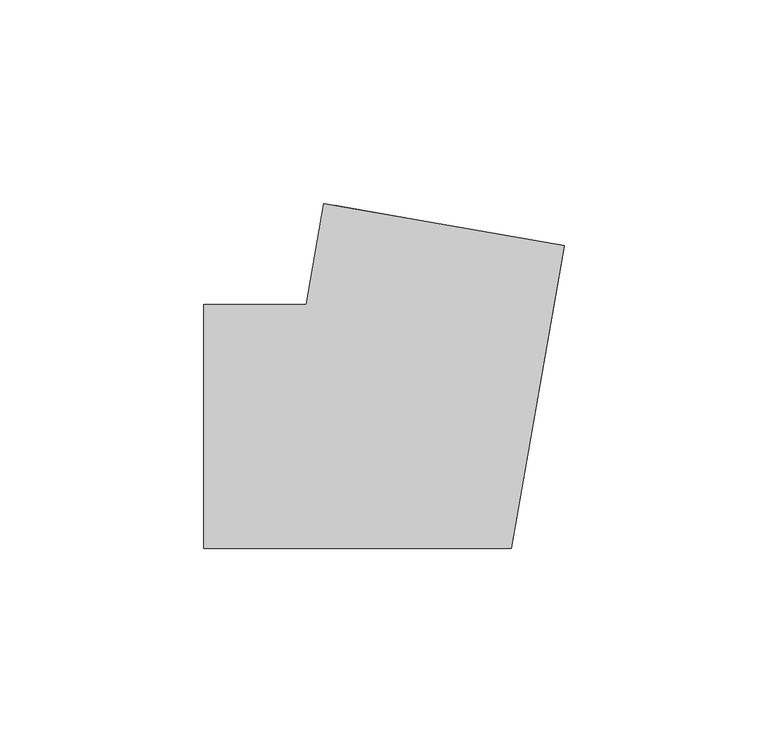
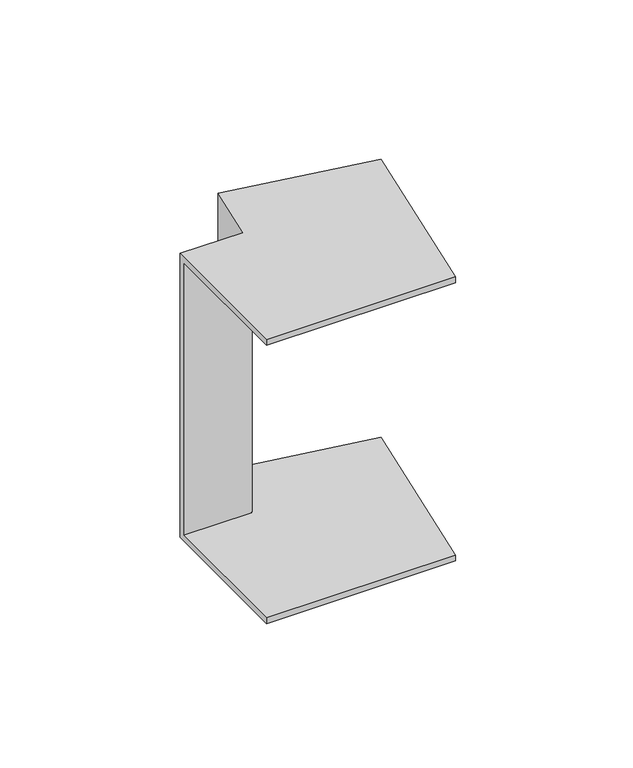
"""IFC4 building model written with IfcOpenShell, lengths in millimetres: cable carrier fitting geometry, КНС_УголВнешний_ILC_DKC : Угол внешний_DKC."""

from ifc_helpers import new_model, si_unit, origin, place, context, project, spatial, faceted_brep, source, transform, mapped, element, save


def cable_carrier_fitting_27f110be(model_context):
    return source(origin(), model_context, "Body", "Brep", [
        faceted_brep([(-50.3459779, 30.0, 60.0), (-50.3459779, 30.0, -60.0), (-50.3459779, -30.0, -60.0), (-50.3459779, -30.0, -57.5), (-50.3459779, 27.5, -57.5), (-50.3459779, 27.5, 57.5), (-50.3459779, -30.0, 57.5), (-50.3459779, -30.0, 60.0), (-20.8017453, 54.7905547, 60.0), (38.2867199, 44.371664, 60.0), (38.2867199, 44.371664, 57.5), (-18.3397259, 54.3564342, 57.5), (-18.3397259, 54.3564342, -57.5), (38.2867199, 44.371664, -57.5), (38.2867199, 44.371664, -60.0), (-20.8017453, 54.7905547, -60.0), (-25.1729889, 30.0, 60.0), (-25.1729889, 30.0, -60.0), (25.1729889, -30.0, -60.0), (25.1729889, -30.0, -57.5), (-23.0752399, 27.5, -57.5), (-23.0752399, 27.5, 57.5), (25.1729889, -30.0, 57.5), (25.1729889, -30.0, 60.0)], [[[0, 1, 2, 3, 4, 5, 6, 7]], [[8, 9, 10, 11, 12, 13, 14, 15]], [[1, 0, 16, 17]], [[2, 1, 17, 15, 14, 18]], [[3, 2, 18, 19]], [[4, 3, 19, 13, 12, 20]], [[5, 4, 20, 21]], [[6, 5, 21, 11, 10, 22]], [[7, 6, 22, 23]], [[0, 7, 23, 9, 8, 16]], [[17, 16, 8, 15]], [[19, 18, 14, 13]], [[21, 20, 12, 11]], [[23, 22, 10, 9]]]),
    ])


if __name__ == "__main__":
    model = new_model("IFC4")
    model_context = context("Model", 3, world=origin())
    ifc_project = project(units=[si_unit("LENGTHUNIT", "METRE", prefix="MILLI")], contexts=[model_context])
    site = spatial("IfcSite", under=ifc_project)
    building = spatial("IfcBuilding", under=site)
    placement = place(None, origin())
    cable_carrier_fitting_shape = cable_carrier_fitting_27f110be(model_context)
    element("IfcCableCarrierFitting", 1, ObjectType="КНС_УголВнешний_ILC_DKC : Угол внешний_DKC", at=placement, inside=building, context=model_context, shape_type="MappedRepresentation", body=[
        mapped(cable_carrier_fitting_shape, transform((0.0, 0.0, 0.0), x_axis=(1.0, 0.0, 0.0), y_axis=(0.0, 1.0, 0.0), z_axis=(0.0, 0.0, 1.0))),
    ])
    save(model, "model.ifc")
